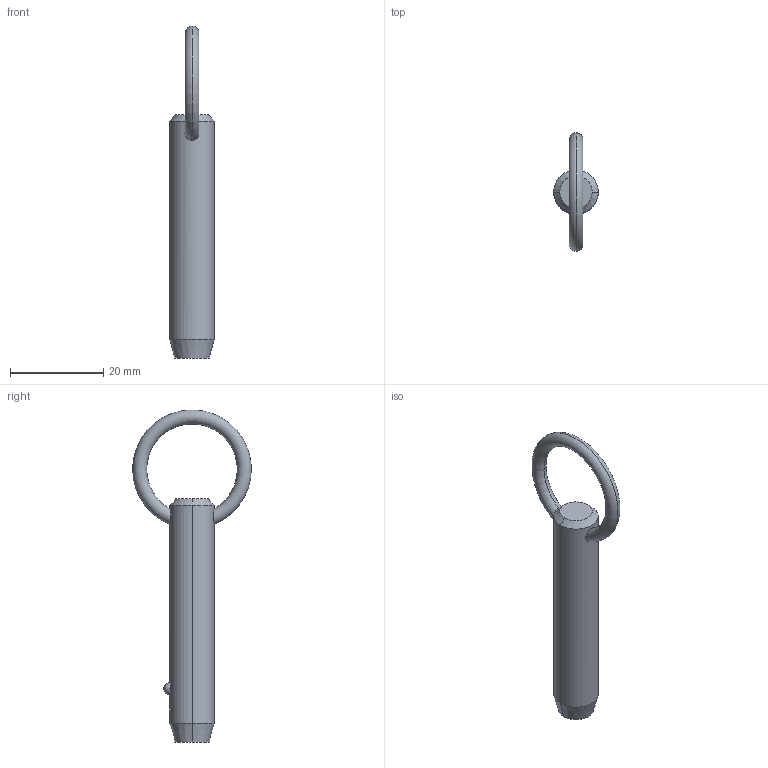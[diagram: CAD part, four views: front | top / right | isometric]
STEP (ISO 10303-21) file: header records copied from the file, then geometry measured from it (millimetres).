
FILE_DESCRIPTION (( 'STEP AP203' ), '1' );
FILE_NAME ('P1250.037-130.step', '2019-07-29T19:59:48', ( '' ), ( '' ), 'SwSTEP 2.0', 'SolidWorks 2017', '' );
FILE_SCHEMA (( 'CONFIG_CONTROL_DESIGN' ));
Length unit declared in the file: millimetre
Products named in the file (1): P1250.037-130
Bounding box: 9.52 x 25.39 x 71.1 mm (x, y, z)
Volume: 4056.1 mm3; surface area: 2198.9 mm2
Topology: 1 solids, 1 shells, 12 faces, 28 edges, 17 vertices
Faces by surface type: cone 4, torus 2, sphere 2, cylinder 2, plane 2
Entity records: 523 total; most frequent: CARTESIAN_POINT 190, DIRECTION 56, ORIENTED_EDGE 48, AXIS2_PLACEMENT_3D 25, EDGE_CURVE 24, VERTEX_POINT 15, EDGE_LOOP 15, FACE_OUTER_BOUND 12
